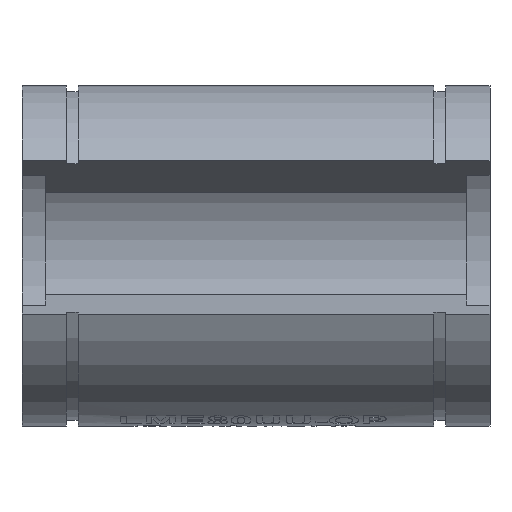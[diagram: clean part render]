
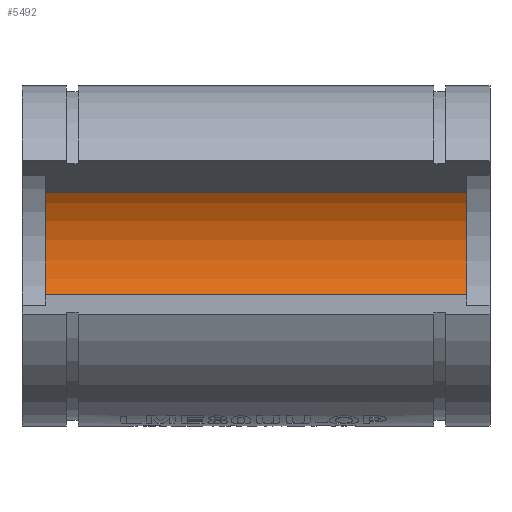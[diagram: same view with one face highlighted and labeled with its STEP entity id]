
A CAD part, front view. The second image highlights one B-rep face of the part: STEP entity #5492.
In plain terms, the highlighted cylindrical face has radius 40 mm (diameter 80 mm), a partial arc.
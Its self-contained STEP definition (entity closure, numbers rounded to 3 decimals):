
#390=LINE('',#8846,#858);
#391=LINE('',#8848,#859);
#858=VECTOR('',#6494,1000.);
#859=VECTOR('',#6495,1000.);
#1304=CIRCLE('',#5914,40.);
#1305=CIRCLE('',#5916,40.);
#1649=ORIENTED_EDGE('',*,*,#3307,.F.);
#1650=ORIENTED_EDGE('',*,*,#3306,.T.);
#1651=ORIENTED_EDGE('',*,*,#3308,.F.);
#1652=ORIENTED_EDGE('',*,*,#3309,.F.);
#3306=EDGE_CURVE('',#4133,#4134,#1304,.T.);
#3307=EDGE_CURVE('',#4133,#4135,#390,.F.);
#3308=EDGE_CURVE('',#4136,#4134,#391,.T.);
#3309=EDGE_CURVE('',#4135,#4136,#1305,.T.);
#4133=VERTEX_POINT('',#8841);
#4134=VERTEX_POINT('',#8843);
#4135=VERTEX_POINT('',#8847);
#4136=VERTEX_POINT('',#8849);
#4683=EDGE_LOOP('',(#1649,#1650,#1651,#1652));
#5077=FACE_BOUND('',#4683,.T.);
#5429=CYLINDRICAL_SURFACE('',#5915,40.);
#5492=ADVANCED_FACE('',(#5077),#5429,.F.);
#5914=AXIS2_PLACEMENT_3D('',#8844,#6490,#6491);
#5915=AXIS2_PLACEMENT_3D('',#8845,#6492,#6493);
#5916=AXIS2_PLACEMENT_3D('',#8850,#6496,#6497);
#6490=DIRECTION('',(-1.,0.,0.));
#6491=DIRECTION('',(0.,0.,1.));
#6492=DIRECTION('',(-1.,0.,0.));
#6493=DIRECTION('',(0.,0.,1.));
#6494=DIRECTION('',(-1.,0.,0.));
#6495=DIRECTION('',(-1.,0.,0.));
#6496=DIRECTION('',(-1.,0.,0.));
#6497=DIRECTION('',(0.,0.,1.));
#8841=CARTESIAN_POINT('',(8.25,-33.168,22.359));
#8843=CARTESIAN_POINT('',(8.25,-37.591,-13.671));
#8844=CARTESIAN_POINT('',(8.25,0.,0.));
#8845=CARTESIAN_POINT('',(165.,0.,0.));
#8846=CARTESIAN_POINT('',(165.,-33.168,22.359));
#8847=CARTESIAN_POINT('',(156.75,-33.168,22.359));
#8848=CARTESIAN_POINT('',(165.,-37.591,-13.671));
#8849=CARTESIAN_POINT('',(156.75,-37.591,-13.671));
#8850=CARTESIAN_POINT('',(156.75,0.,0.));
